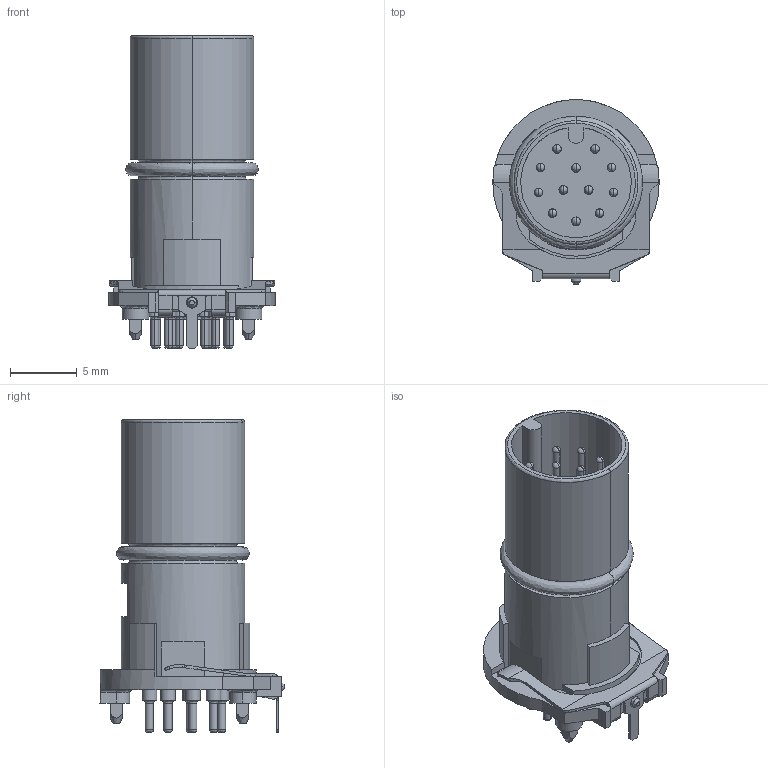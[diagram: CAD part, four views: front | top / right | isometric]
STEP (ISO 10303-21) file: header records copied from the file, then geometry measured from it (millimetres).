
FILE_DESCRIPTION (( 'STEP AP203' ), '1' );
FILE_NAME ('862-012-113R001.STEP', '2025-07-22T16:43:26', ( '' ), ( '' ), 'SwSTEP 2.0', 'SolidWorks 2020', '' );
FILE_SCHEMA (( 'CONFIG_CONTROL_DESIGN' ));
Length unit declared in the file: millimetre
Products named in the file (1): 862-012-113R001
Bounding box: 12.5 x 13.84 x 23.5 mm (x, y, z)
Volume: 1065.9 mm3; surface area: 2526.5 mm2
Topology: 1 solids, 1 shells, 633 faces, 1485 edges, 884 vertices
Faces by surface type: cylinder 283, plane 185, bspline 85, cone 80
Entity records: 19487 total; most frequent: CARTESIAN_POINT 5367, DIRECTION 3048, ORIENTED_EDGE 2874, EDGE_CURVE 1437, AXIS2_PLACEMENT_3D 1201, VERTEX_POINT 884, EDGE_LOOP 715, CIRCLE 652
